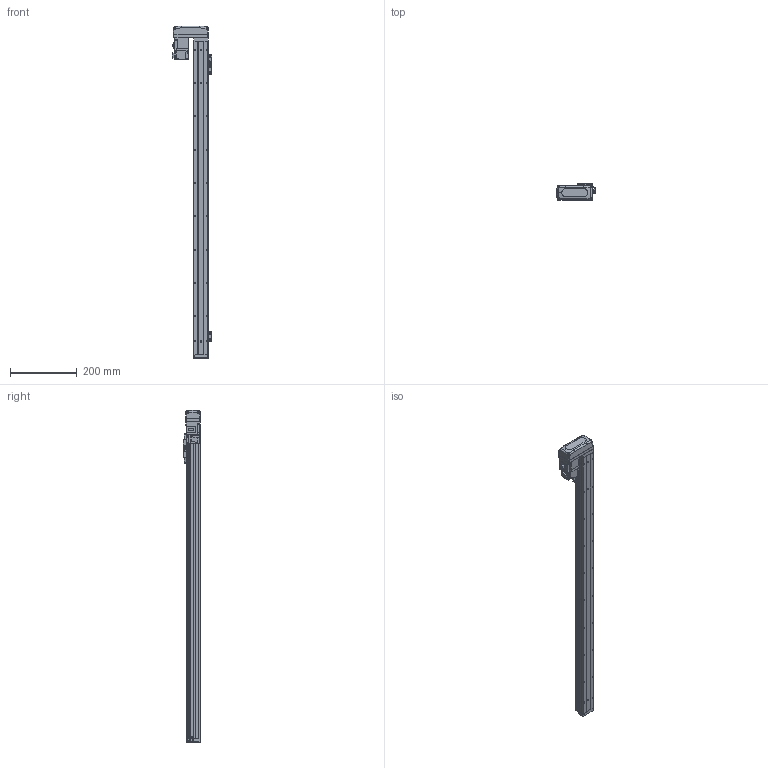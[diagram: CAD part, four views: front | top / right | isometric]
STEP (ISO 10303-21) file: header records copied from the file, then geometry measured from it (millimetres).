
FILE_DESCRIPTION (( 'STEP AP203' ), '1' );
FILE_NAME ('GTH4-800-BR-M05-C4.step', '2023-08-28T00:45:16', ( '微软用户' ), ( '微软中国' ), 'SwSTEP 2.0', 'SolidWorks 2020', '' );
FILE_SCHEMA (( 'CONFIG_CONTROL_DESIGN' ));
Length unit declared in the file: millimetre
Products named in the file (19): BTH40-003; GBT96.1-2002 3×0.8; BTH40-027-1; BTH40-006; BTH40-022; BTH50-026; BTH-M3X5X6; GBT70.1-2000 M3×16; GBT 70.1-M2.5×6; GTH4-800-BR-M05-C4; BTH50-028; BTH40-004; BTH50-023; BTH40-013; BTH50-024; HG-KR13; BTH40-001-50_BTH40-001-800; GBT 70.1-M3℅6; GBT 70.3-M3℅6
Assembly tree (47 placements, depth 2):
  GTH4-800-BR-M05-C4
    BTH40-001-50_BTH40-001-800
    BTH40-003
    BTH40-006
    BTH-M3X5X6  x8
    GBT70.1-2000 M3×16  x4
    BTH50-028  x2
    BTH50-023  x3
    BTH50-024  x3
    GBT 70.1-M3℅6  x6
    GBT96.1-2002 3×0.8  x6
    BTH40-022
    GBT 70.1-M2.5×6  x2
    BTH40-004
    BTH40-013
    HG-KR13
    GBT 70.3-M3℅6  x4
    BTH40-027-1
    BTH50-026
Bounding box: 120 x 52 x 996 mm (x, y, z)
Volume: 1720267.9 mm3; surface area: 286894.4 mm2
Topology: 49 solids, 49 shells, 1995 faces, 4695 edges, 2890 vertices
Faces by surface type: plane 1052, cylinder 507, cone 270, torus 128, bspline 34, sphere 4
Entity records: 40135 total; most frequent: CARTESIAN_POINT 7666, DIRECTION 6308, ORIENTED_EDGE 6036, EDGE_CURVE 3018, AXIS2_PLACEMENT_3D 2167, LINE 1974, VECTOR 1974, VERTEX_POINT 1877
